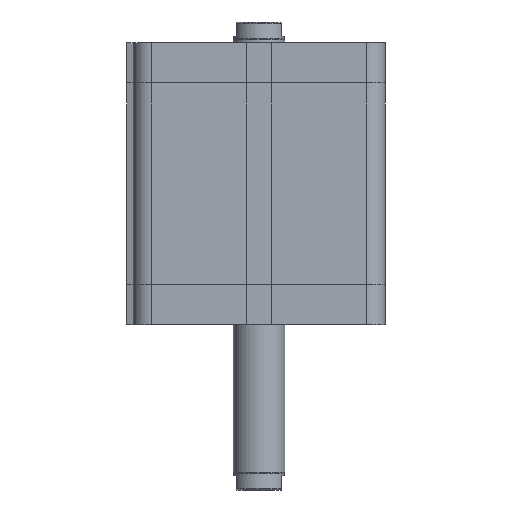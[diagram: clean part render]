
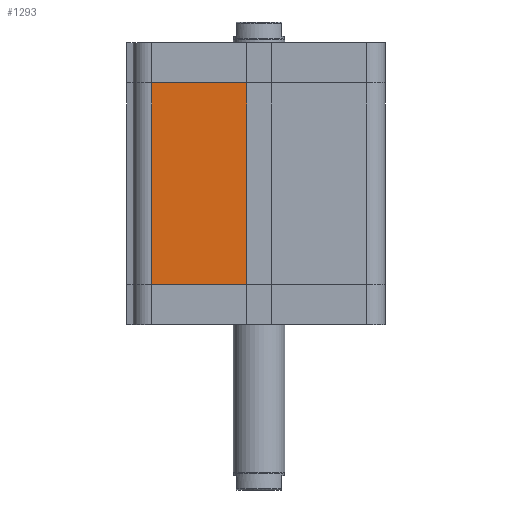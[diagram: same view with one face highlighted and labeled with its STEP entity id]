
A CAD part, left-side view. The second image highlights one B-rep face of the part: STEP entity #1293.
In plain terms, the highlighted planar face has unit normal (-1, 0, 0).
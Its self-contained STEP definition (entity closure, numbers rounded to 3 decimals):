
#1204=CARTESIAN_POINT('',(-61.0,52.,19.5));
#1205=VERTEX_POINT('',#1204);
#1213=CARTESIAN_POINT('',(-61.0,52.,117.));
#1214=VERTEX_POINT('',#1213);
#1215=CARTESIAN_POINT('',(-61.0,52.,19.5));
#1216=DIRECTION('',(0.0,0.0,1.0));
#1217=VECTOR('',#1216,97.5);
#1218=LINE('',#1215,#1217);
#1219=EDGE_CURVE('',#1205,#1214,#1218,.T.);
#1263=CARTESIAN_POINT('',(-61.,6.,0.0));
#1264=DIRECTION('',(-1.0,0.0,0.0));
#1265=DIRECTION('',(0.0,0.0,1.0));
#1266=AXIS2_PLACEMENT_3D('',#1263,#1264,#1265);
#1267=PLANE('',#1266);
#1268=CARTESIAN_POINT('',(-61.,6.,19.5));
#1269=VERTEX_POINT('',#1268);
#1270=CARTESIAN_POINT('',(-61.0,52.,19.5));
#1271=DIRECTION('',(0.0,-1.0,0.0));
#1272=VECTOR('',#1271,46.);
#1273=LINE('',#1270,#1272);
#1274=EDGE_CURVE('',#1205,#1269,#1273,.T.);
#1275=ORIENTED_EDGE('',*,*,#1274,.T.);
#1276=CARTESIAN_POINT('',(-61.,6.,117.));
#1277=VERTEX_POINT('',#1276);
#1278=CARTESIAN_POINT('',(-61.,6.,19.5));
#1279=DIRECTION('',(0.0,0.0,1.0));
#1280=VECTOR('',#1279,97.5);
#1281=LINE('',#1278,#1280);
#1282=EDGE_CURVE('',#1269,#1277,#1281,.T.);
#1283=ORIENTED_EDGE('',*,*,#1282,.T.);
#1284=CARTESIAN_POINT('',(-61.0,52.,117.));
#1285=DIRECTION('',(0.0,-1.0,0.0));
#1286=VECTOR('',#1285,46.);
#1287=LINE('',#1284,#1286);
#1288=EDGE_CURVE('',#1214,#1277,#1287,.T.);
#1289=ORIENTED_EDGE('',*,*,#1288,.F.);
#1290=ORIENTED_EDGE('',*,*,#1219,.F.);
#1291=EDGE_LOOP('',(#1275,#1283,#1289,#1290));
#1292=FACE_OUTER_BOUND('',#1291,.T.);
#1293=ADVANCED_FACE('',(#1292),#1267,.T.);
